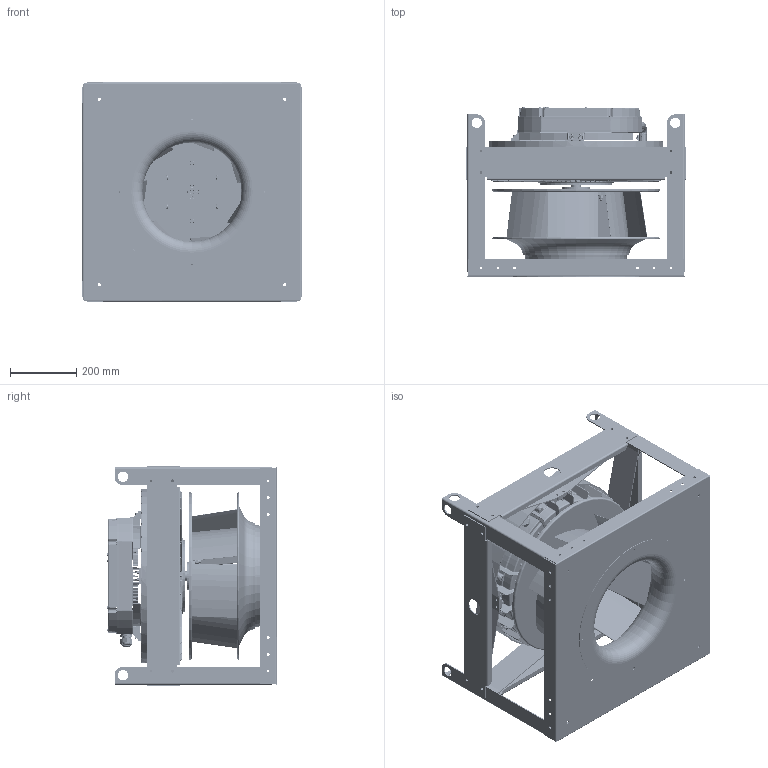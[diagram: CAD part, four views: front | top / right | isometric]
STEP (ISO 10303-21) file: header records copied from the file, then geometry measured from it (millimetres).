
FILE_DESCRIPTION (( 'STEP AP214' ), '1' );
FILE_NAME ('655778.STEP', '2026-06-10T20:02:21', ( '' ), ( '' ), 'SwSTEP 2.0', 'SolidWorks 2023', '' );
FILE_SCHEMA (( 'AUTOMOTIVE_DESIGN' ));
Length unit declared in the file: inch
Products named in the file (8): 651568_651568; 925959CS_925959CS; SXPI STRAP_651579; 655778; 651583_651583; 651567_651567; 768048CS_748048CS; 768036CS_768036CS
Assembly tree (16 placements, depth 2):
  655778
    651567_651567
    651568_651568  x4
    651583_651583  x4
    925959CS_925959CS
    768036CS_768036CS
    768048CS_748048CS
    SXPI STRAP_651579  x4
Bounding box: 663.7 x 514.98 x 663.7 mm (x, y, z)
Volume: 5740230 mm3; surface area: 5684756.8 mm2
Topology: 50 solids, 342 shells, 4345 faces, 13442 edges, 9167 vertices
Faces by surface type: plane 1296, cylinder 1208, bspline 1020, cone 442, torus 311, sphere 68
Full cylindrical faces by diameter (mm): 2.9 x2, 3.962 x4, 5.105 x16, 6 x37, 7 x5, 7.137 x16, 7.544 x1, 7.937 x3, 7.938 x1, 8.5 x1, 8.738 x87, 9 x4, 9.73 x8, 10 x8, 10.1 x1, 11.8 x16, 12.5 x1, 12.6 x1, 13 x15, 14 x1, 17.462 x2, 17.463 x2, 23.5 x1, 23.92 x1, 24.282 x1, 25.5 x3, 26.2 x1, 26.35 x1, 26.416 x2, 26.5 x1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
Entity records: 292811 total; most frequent: CARTESIAN_POINT 194362, ORIENTED_EDGE 19600, DIRECTION 17764, EDGE_CURVE 12188, VERTEX_POINT 8577, AXIS2_PLACEMENT_3D 7163, EDGE_LOOP 4942, FACE_OUTER_BOUND 4223
